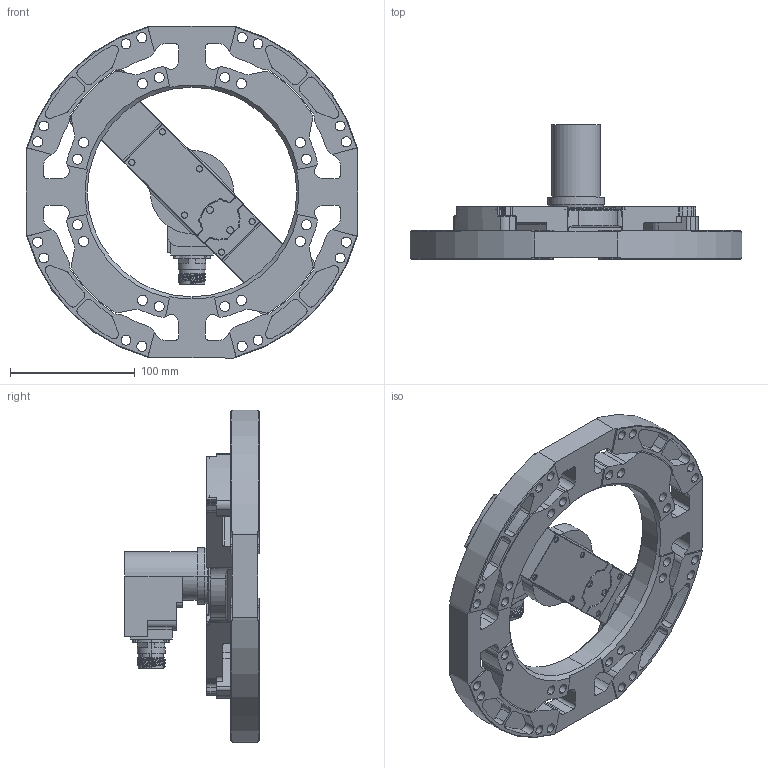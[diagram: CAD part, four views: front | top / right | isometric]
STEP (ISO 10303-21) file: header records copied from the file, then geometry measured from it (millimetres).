
FILE_DESCRIPTION (( 'STEP AP214' ), '1' );
FILE_NAME ('1018262.STEP', '2021-09-28T17:00:00', ( '' ), ( '' ), 'SwSTEP 2.0', 'SolidWorks 2020', '' );
FILE_SCHEMA (( 'AUTOMOTIVE_DESIGN' ));
Length unit declared in the file: inch
Products named in the file (1): 1018262
Bounding box: 265.68 x 107.67 x 265.68 mm (x, y, z)
Volume: 952522 mm3; surface area: 211445.3 mm2
Topology: 1 solids, 15 shells, 1959 faces, 5185 edges, 3335 vertices
Faces by surface type: plane 1040, cylinder 633, cone 270, bspline 14, torus 2
Entity records: 63207 total; most frequent: CARTESIAN_POINT 14799, ORIENTED_EDGE 10306, DIRECTION 9837, EDGE_CURVE 5153, AXIS2_PLACEMENT_3D 3475, VERTEX_POINT 3335, LINE 2887, VECTOR 2887
